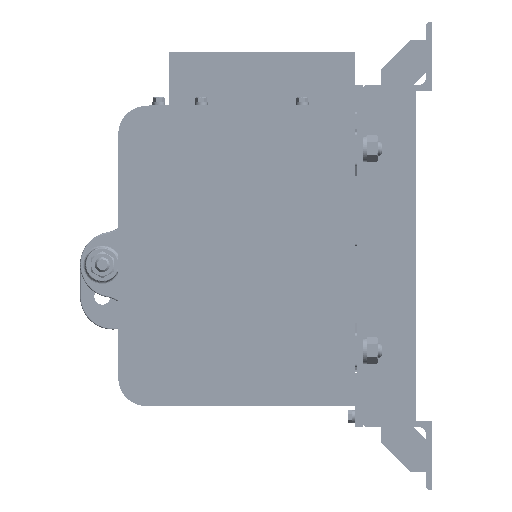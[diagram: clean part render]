
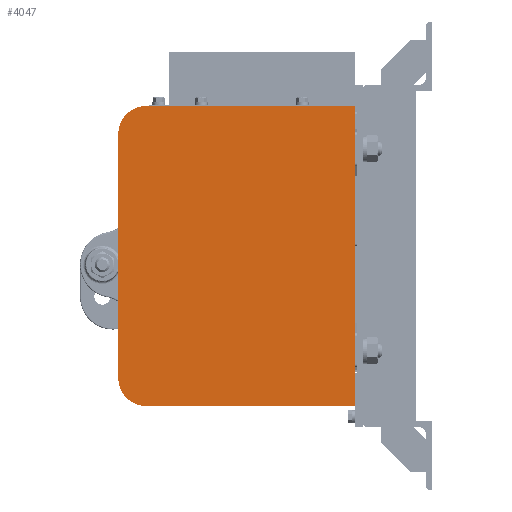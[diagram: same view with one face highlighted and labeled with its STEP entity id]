
A CAD part, left-side view. The second image highlights one B-rep face of the part: STEP entity #4047.
In plain terms, the highlighted planar face has unit normal (-1, 0, 0).
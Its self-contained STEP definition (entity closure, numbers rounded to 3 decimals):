
#4047=ADVANCED_FACE('',(#45156),#45155,.F.);
#45155=PLANE('',#188775);
#45156=FACE_OUTER_BOUND('',#188776,.T.);
#188772=CARTESIAN_POINT('',(-1339.111,-1037.059,-1331.166));
#188773=DIRECTION('',(1.,0.,0.));
#188774=DIRECTION('',(0.,0.,-1.));
#188775=AXIS2_PLACEMENT_3D('',#188772,#188773,#188774);
#188776=EDGE_LOOP('',(#216264,#216265,#216266,#216267,#216268,#216269));
#216264=ORIENTED_EDGE('',*,*,#233478,.F.);
#216265=ORIENTED_EDGE('',*,*,#233479,.F.);
#216266=ORIENTED_EDGE('',*,*,#233480,.F.);
#216267=ORIENTED_EDGE('',*,*,#233481,.F.);
#216268=ORIENTED_EDGE('',*,*,#233482,.F.);
#216269=ORIENTED_EDGE('',*,*,#232318,.F.);
#232318=EDGE_CURVE('',#302335,#302342,#302343,.T.);
#233478=EDGE_CURVE('',#309669,#302335,#309670,.T.);
#233479=EDGE_CURVE('',#309676,#309669,#309677,.T.);
#233480=EDGE_CURVE('',#309683,#309676,#309684,.T.);
#233481=EDGE_CURVE('',#309690,#309683,#309691,.T.);
#233482=EDGE_CURVE('',#302342,#309690,#309697,.T.);
#302335=VERTEX_POINT('',#385205);
#302342=VERTEX_POINT('',#385209);
#302343=LINE('',#385210,#385211);
#309669=VERTEX_POINT('',#395717);
#309670=CIRCLE('',#395721,26.);
#309676=VERTEX_POINT('',#395722);
#309677=LINE('',#395723,#395724);
#309683=VERTEX_POINT('',#395726);
#309684=CIRCLE('',#395730,26.);
#309690=VERTEX_POINT('',#395731);
#309691=LINE('',#395732,#395733);
#309697=LINE('',#395735,#395736);
#385205=CARTESIAN_POINT('',(-1339.111,-830.059,-1341.166));
#385209=CARTESIAN_POINT('',(-1339.111,-1027.059,-1341.166));
#385210=CARTESIAN_POINT('',(-1339.111,-830.059,-1341.166));
#385211=VECTOR('',#385212,197.);
#385212=DIRECTION('',(0.,-1.,0.));
#395717=CARTESIAN_POINT('',(-1339.111,-804.059,-1367.166));
#395718=CARTESIAN_POINT('',(-1339.111,-830.059,-1367.166));
#395719=DIRECTION('',(1.,0.,0.));
#395720=DIRECTION('',(0.,-1.,0.));
#395721=AXIS2_PLACEMENT_3D('',#395718,#395719,#395720);
#395722=CARTESIAN_POINT('',(-1339.111,-804.059,-1597.166));
#395723=CARTESIAN_POINT('',(-1339.111,-804.059,-1597.166));
#395724=VECTOR('',#395725,230.);
#395725=DIRECTION('',(0.,0.,1.));
#395726=CARTESIAN_POINT('',(-1339.111,-830.059,-1623.166));
#395727=CARTESIAN_POINT('',(-1339.111,-830.059,-1597.166));
#395728=DIRECTION('',(1.,0.,0.));
#395729=DIRECTION('',(0.,0.,1.));
#395730=AXIS2_PLACEMENT_3D('',#395727,#395728,#395729);
#395731=CARTESIAN_POINT('',(-1339.111,-1027.059,-1623.166));
#395732=CARTESIAN_POINT('',(-1339.111,-1027.059,-1623.166));
#395733=VECTOR('',#395734,197.);
#395734=DIRECTION('',(0.,1.,0.));
#395735=CARTESIAN_POINT('',(-1339.111,-1027.059,-1341.166));
#395736=VECTOR('',#395737,282.);
#395737=DIRECTION('',(0.,0.,-1.));
